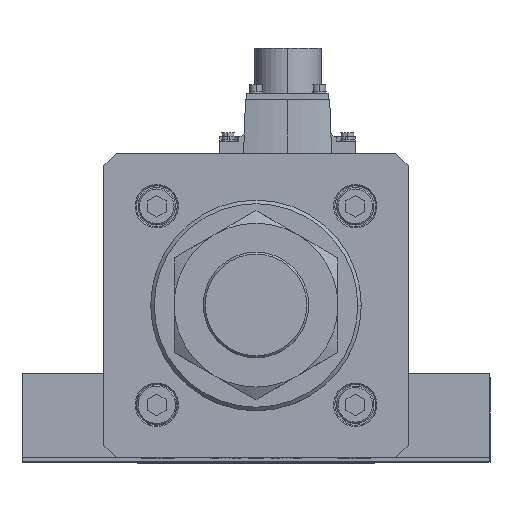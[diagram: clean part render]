
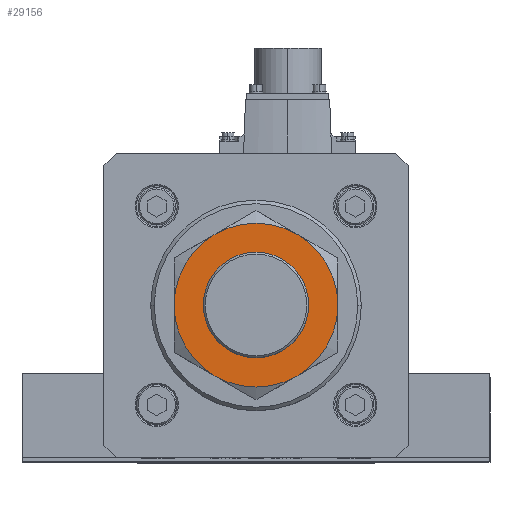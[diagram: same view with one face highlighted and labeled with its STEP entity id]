
A CAD part, top view. The second image highlights one B-rep face of the part: STEP entity #29156.
In plain terms, the highlighted planar face has unit normal (0, 0, 1).
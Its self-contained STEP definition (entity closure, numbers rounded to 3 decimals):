
#954 = VERTEX_POINT ( 'NONE', #14734 ) ;
#1393 = EDGE_CURVE ( 'NONE', #30992, #20566, #22110, .T. ) ;
#1677 = CARTESIAN_POINT ( 'NONE',  ( -35., 0., 27. ) ) ;
#1811 = EDGE_CURVE ( 'NONE', #32085, #31978, #32271, .T. ) ;
#2124 = CARTESIAN_POINT ( 'NONE',  ( 0., 0., 27. ) ) ;
#2684 = CARTESIAN_POINT ( 'NONE',  ( -17.5, -30.311, 27. ) ) ;
#2911 = DIRECTION ( 'NONE',  ( 1., 0., 0. ) ) ;
#2943 = ORIENTED_EDGE ( 'NONE', *, *, #28869, .F. ) ;
#3130 = DIRECTION ( 'NONE',  ( 0., 0., -1. ) ) ;
#3627 = CARTESIAN_POINT ( 'NONE',  ( 22.5, 0., 27. ) ) ;
#4404 = AXIS2_PLACEMENT_3D ( 'NONE', #34885, #26534, #35117 ) ;
#5213 = ORIENTED_EDGE ( 'NONE', *, *, #21777, .F. ) ;
#5481 = AXIS2_PLACEMENT_3D ( 'NONE', #11207, #7826, #34841 ) ;
#6706 = CARTESIAN_POINT ( 'NONE',  ( 0., 0., 27. ) ) ;
#6841 = CARTESIAN_POINT ( 'NONE',  ( 0., 0., 27. ) ) ;
#7183 = CIRCLE ( 'NONE', #7811, 22.5 ) ;
#7304 = AXIS2_PLACEMENT_3D ( 'NONE', #6706, #30684, #19010 ) ;
#7811 = AXIS2_PLACEMENT_3D ( 'NONE', #24130, #11825, #2911 ) ;
#7826 = DIRECTION ( 'NONE',  ( 0., 0., -1. ) ) ;
#8525 = CARTESIAN_POINT ( 'NONE',  ( -22.5, 0., 27. ) ) ;
#10332 = EDGE_CURVE ( 'NONE', #34507, #11935, #7183, .T. ) ;
#10741 = CARTESIAN_POINT ( 'NONE',  ( -17.5, 30.311, 27. ) ) ;
#11207 = CARTESIAN_POINT ( 'NONE',  ( 0., 0., 27. ) ) ;
#11306 = DIRECTION ( 'NONE',  ( 1., 0., 0. ) ) ;
#11716 = CIRCLE ( 'NONE', #12125, 22.5 ) ;
#11825 = DIRECTION ( 'NONE',  ( 0., 0., 1. ) ) ;
#11935 = VERTEX_POINT ( 'NONE', #3627 ) ;
#12125 = AXIS2_PLACEMENT_3D ( 'NONE', #27766, #19742, #11306 ) ;
#12179 = VERTEX_POINT ( 'NONE', #10741 ) ;
#12611 = ORIENTED_EDGE ( 'NONE', *, *, #26314, .F. ) ;
#13384 = EDGE_CURVE ( 'NONE', #20566, #32085, #15838, .T. ) ;
#14734 = CARTESIAN_POINT ( 'NONE',  ( 17.5, 30.311, 27. ) ) ;
#15838 = CIRCLE ( 'NONE', #19342, 35. ) ;
#17793 = CIRCLE ( 'NONE', #5481, 35. ) ;
#17969 = CARTESIAN_POINT ( 'NONE',  ( 0., 0., 27. ) ) ;
#18100 = DIRECTION ( 'NONE',  ( -1., 0., 0. ) ) ;
#18994 = AXIS2_PLACEMENT_3D ( 'NONE', #17969, #30024, #18100 ) ;
#19010 = DIRECTION ( 'NONE',  ( -1., 0., 0. ) ) ;
#19342 = AXIS2_PLACEMENT_3D ( 'NONE', #38271, #3130, #29811 ) ;
#19742 = DIRECTION ( 'NONE',  ( 0., 0., 1. ) ) ;
#20566 = VERTEX_POINT ( 'NONE', #22410 ) ;
#21050 = ORIENTED_EDGE ( 'NONE', *, *, #1811, .F. ) ;
#21204 = EDGE_CURVE ( 'NONE', #12179, #954, #17793, .T. ) ;
#21777 = EDGE_CURVE ( 'NONE', #11935, #34507, #11716, .T. ) ;
#22110 = CIRCLE ( 'NONE', #7304, 35. ) ;
#22410 = CARTESIAN_POINT ( 'NONE',  ( 17.5, -30.311, 27. ) ) ;
#22672 = ORIENTED_EDGE ( 'NONE', *, *, #21204, .F. ) ;
#23207 = DIRECTION ( 'NONE',  ( 1., 0., 0. ) ) ;
#24130 = CARTESIAN_POINT ( 'NONE',  ( 0., 0., 27. ) ) ;
#25693 = DIRECTION ( 'NONE',  ( 0., 0., 1. ) ) ;
#26062 = CIRCLE ( 'NONE', #4404, 35. ) ;
#26314 = EDGE_CURVE ( 'NONE', #31978, #12179, #26062, .T. ) ;
#26534 = DIRECTION ( 'NONE',  ( 0., 0., -1. ) ) ;
#27356 = EDGE_LOOP ( 'NONE', ( #30933, #5213 ) ) ;
#27610 = DIRECTION ( 'NONE',  ( -1., 0., 0. ) ) ;
#27766 = CARTESIAN_POINT ( 'NONE',  ( 0., 0., 27. ) ) ;
#27869 = DIRECTION ( 'NONE',  ( 0., 0., -1. ) ) ;
#28023 = ORIENTED_EDGE ( 'NONE', *, *, #1393, .F. ) ;
#28869 = EDGE_CURVE ( 'NONE', #954, #30992, #32419, .T. ) ;
#29156 = ADVANCED_FACE ( 'NONE', ( #35170, #33306 ), #37499, .T. ) ;
#29502 = EDGE_LOOP ( 'NONE', ( #28023, #2943, #22672, #12611, #21050, #35744 ) ) ;
#29811 = DIRECTION ( 'NONE',  ( -1., 0., 0. ) ) ;
#30024 = DIRECTION ( 'NONE',  ( 0., 0., -1. ) ) ;
#30570 = CARTESIAN_POINT ( 'NONE',  ( 35., 0., 27. ) ) ;
#30684 = DIRECTION ( 'NONE',  ( 0., 0., -1. ) ) ;
#30933 = ORIENTED_EDGE ( 'NONE', *, *, #10332, .F. ) ;
#30992 = VERTEX_POINT ( 'NONE', #30570 ) ;
#31978 = VERTEX_POINT ( 'NONE', #1677 ) ;
#32085 = VERTEX_POINT ( 'NONE', #2684 ) ;
#32271 = CIRCLE ( 'NONE', #18994, 35. ) ;
#32419 = CIRCLE ( 'NONE', #37399, 35. ) ;
#33183 = AXIS2_PLACEMENT_3D ( 'NONE', #2124, #25693, #23207 ) ;
#33306 = FACE_BOUND ( 'NONE', #27356, .T. ) ;
#34507 = VERTEX_POINT ( 'NONE', #8525 ) ;
#34841 = DIRECTION ( 'NONE',  ( -1., 0., 0. ) ) ;
#34885 = CARTESIAN_POINT ( 'NONE',  ( 0., 0., 27. ) ) ;
#35117 = DIRECTION ( 'NONE',  ( -1., 0., 0. ) ) ;
#35170 = FACE_OUTER_BOUND ( 'NONE', #29502, .T. ) ;
#35744 = ORIENTED_EDGE ( 'NONE', *, *, #13384, .F. ) ;
#37399 = AXIS2_PLACEMENT_3D ( 'NONE', #6841, #27869, #27610 ) ;
#37499 = PLANE ( 'NONE',  #33183 ) ;
#38271 = CARTESIAN_POINT ( 'NONE',  ( 0., 0., 27. ) ) ;
